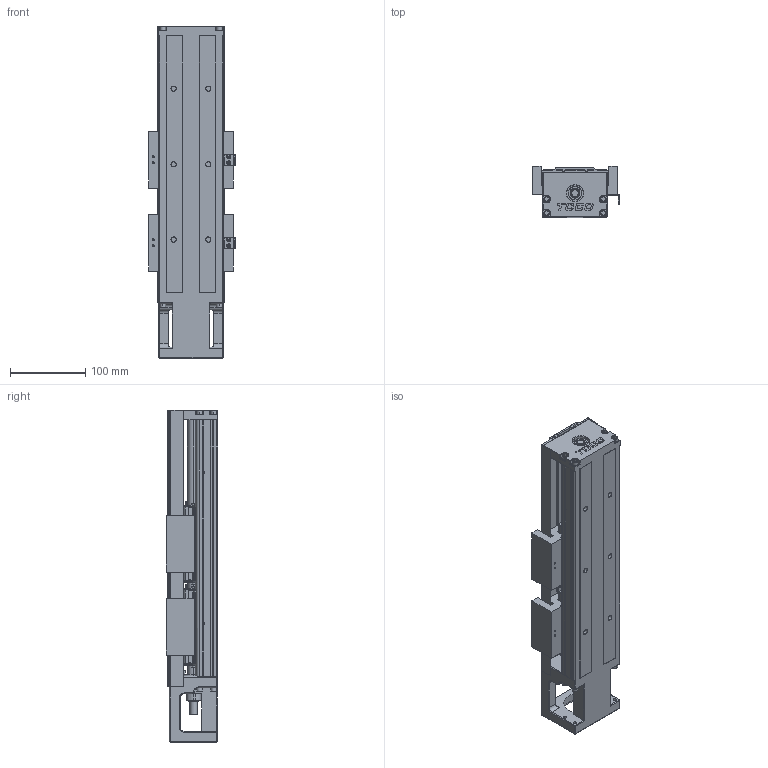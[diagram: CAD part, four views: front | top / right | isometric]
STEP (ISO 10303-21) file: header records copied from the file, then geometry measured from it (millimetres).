
FILE_DESCRIPTION (( 'STEP AP214' ), '1' );
FILE_NAME ('7.0106 KT8610C-340A2-F0C.STEP', '2026-03-16T11:18:06', ( '' ), ( '' ), 'SwSTEP 2.0', 'SolidWorks 2025', '' );
FILE_SCHEMA (( 'AUTOMOTIVE_DESIGN' ));
Length unit declared in the file: millimetre
Products named in the file (4): 7.0106 KT8610C-340A2-F0C; KT86-F0_KKR86-ZT-P-340; KT86-A1-C; KT86-CU_340
Assembly tree (4 placements, depth 2):
  7.0106 KT8610C-340A2-F0C
    KT86-F0_KKR86-ZT-P-340
    KT86-A1-C  x2
    KT86-CU_340
Bounding box: 114.7 x 68 x 440.2 mm (x, y, z)
Volume: 1518402.9 mm3; surface area: 467988.3 mm2
Topology: 52 solids, 52 shells, 2517 faces, 6516 edges, 4105 vertices
Faces by surface type: plane 1278, cylinder 819, cone 300, torus 77, sphere 26, bspline 17
Entity records: 67073 total; most frequent: CARTESIAN_POINT 10479, DIRECTION 8477, ORIENTED_EDGE 8132, EDGE_CURVE 4066, AXIS2_PLACEMENT_3D 2984, VERTEX_POINT 2609, VECTOR 2509, LINE 2509
